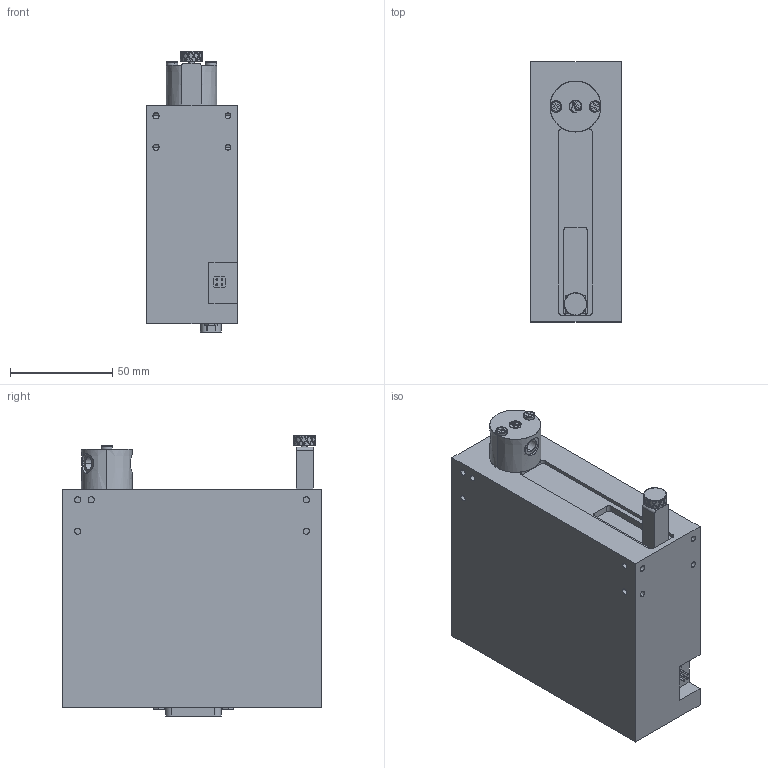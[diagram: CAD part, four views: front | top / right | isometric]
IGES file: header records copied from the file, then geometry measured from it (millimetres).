
Start section: SolidWorks IGES file using analytic representation for surfaces
Global section: file name: O:\Model\Assembly Web\MOD91013 RC.IGS; native system: SolidWorks 2012; preprocessor: SolidWorks 2012; author: Wheeling; date: 130403.135205; units: inch
Bounding box: 44.45 x 127 x 137.39 mm (x, y, z)
Surface area: 63152.5 mm2 (no closed solid volume)
Topology: 0 solids, 0 shells, 1069 faces, 10714 edges, 10706 vertices
Faces by surface type: bspline 787, revolution 282
